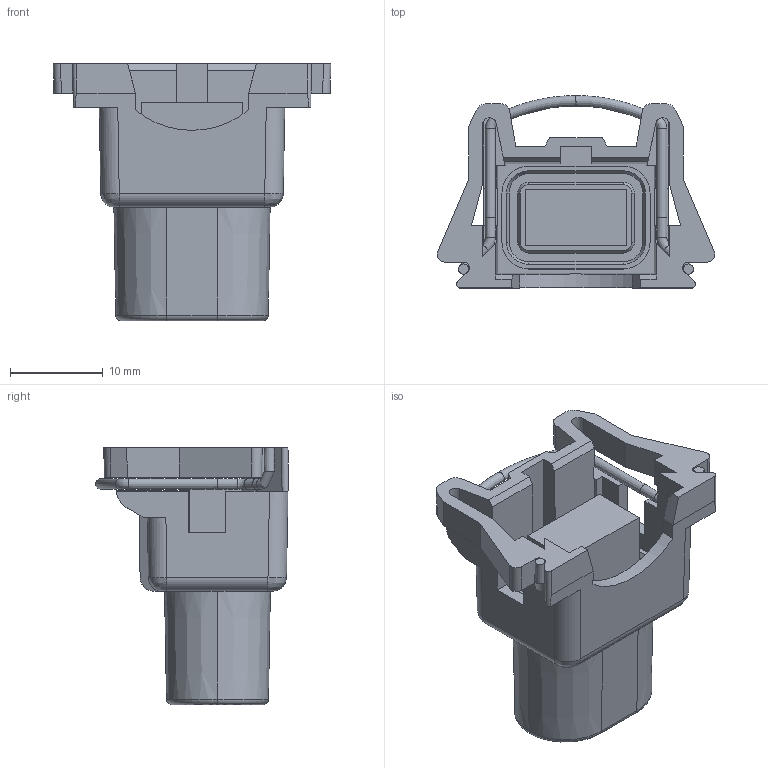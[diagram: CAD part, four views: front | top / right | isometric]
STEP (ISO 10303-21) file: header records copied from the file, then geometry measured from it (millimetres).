
FILE_DESCRIPTION(/* description */ (''),/* implementation_level */ '2;1');
FILE_NAME(/* name */ '12129142-ENV11_03-CONN.stp',/* time_stamp */ '2021-09-18T15:04:16+06:00',/* author */ (''),/* organization */ (''),/* preprocessor_version */ 'ST-DEVELOPER v16',/* originating_system */ 'SIEMENS PLM Software NX 11.0',/* authorisation */ '');
FILE_SCHEMA (('AP203_CONFIGURATION_CONTROLLED_3D_DESIGN_OF_MECHANICAL_PARTS_AND_ASSEMBLIES_MIM_LF { 1 0 10303 403 2 1 2}'));
Length unit declared in the file: millimetre
Products named in the file (1): hjcv348867DBm6su
Bounding box: 29.99 x 20.79 x 27.78 mm (x, y, z)
Volume: 4716.5 mm3; surface area: 4243.4 mm2
Topology: 3 solids, 3 shells, 239 faces, 636 edges, 404 vertices
Faces by surface type: plane 134, cylinder 47, cone 22, bspline 20, torus 8, extrusion 6, revolution 2
Entity records: 10084 total; most frequent: CARTESIAN_POINT 4137, ORIENTED_EDGE 1234, DIRECTION 1175, EDGE_CURVE 617, VECTOR 437, LINE 431, VERTEX_POINT 403, AXIS2_PLACEMENT_3D 368
